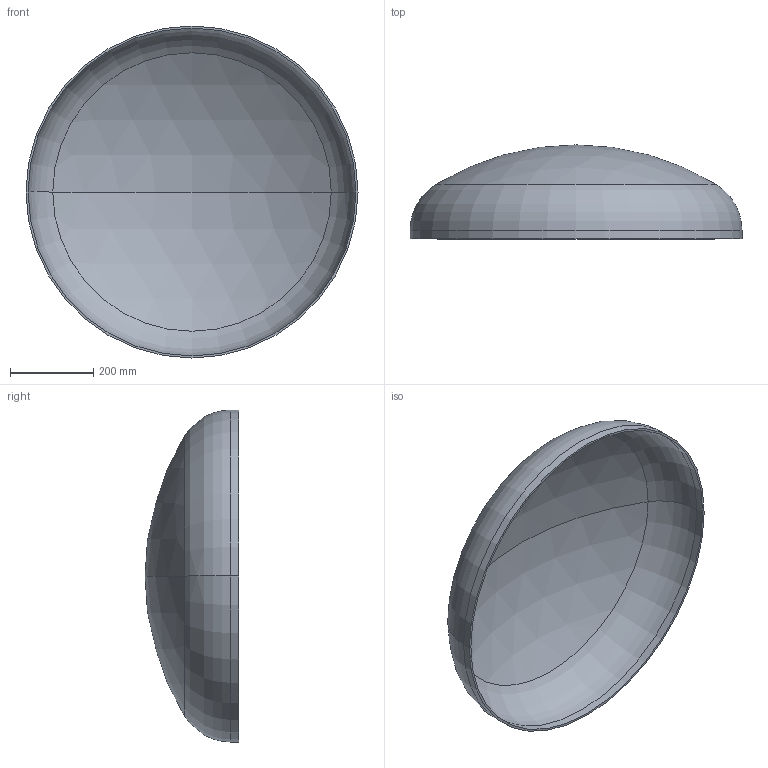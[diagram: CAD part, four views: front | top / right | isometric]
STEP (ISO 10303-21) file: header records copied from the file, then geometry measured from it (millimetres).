
FILE_DESCRIPTION (( 'STEP AP203' ), '1' );
FILE_NAME ('DIN 28013 Korbbogenform_-_Boden DIN 28013 - 800 x 20 - I - s=5.step', '2016-07-01T08:11:46', ( '' ), ( '' ), 'SwSTEP 2.0', 'SolidWorks 2013', '' );
FILE_SCHEMA (( 'CONFIG_CONTROL_DESIGN' ));
Length unit declared in the file: millimetre
Products named in the file (1): DIN 28013 Korbbogenform_-_Boden DIN 28013 - 800 x 20 - I - s=5
Bounding box: 800 x 226.45 x 800 mm (x, y, z)
Volume: 3711874.4 mm3; surface area: 1497289.4 mm2
Topology: 1 solids, 1 shells, 13 faces, 24 edges, 14 vertices
Faces by surface type: torus 4, cylinder 4, sphere 4, plane 1
Entity records: 407 total; most frequent: DIRECTION 72, CARTESIAN_POINT 52, ORIENTED_EDGE 48, AXIS2_PLACEMENT_3D 34, EDGE_CURVE 24, CIRCLE 20, VERTEX_POINT 14, EDGE_LOOP 14
